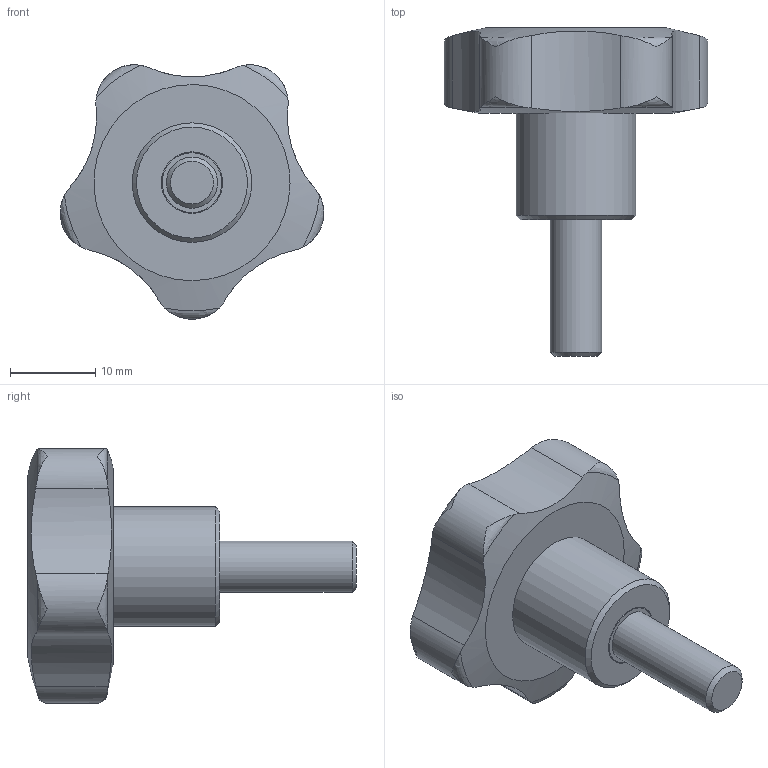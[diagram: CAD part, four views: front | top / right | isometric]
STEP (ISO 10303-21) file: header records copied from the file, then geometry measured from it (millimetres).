
FILE_DESCRIPTION( ( 'STEP AP203' ), '1' );
FILE_NAME( 'C:/Temp/Ganter_Step_05_03_2020/data/2_2/gn_5337_4/gn_5337_4_s/Star knob GN 5337.4-32-M6-16.stp', '2020-03-05T12:09:41', ( 'License CC BY-ND 4.0' ), ( 'CADENAS' ), ' ', 'PARTsolutions', ' ' );
FILE_SCHEMA( ( 'CONFIG_CONTROL_DESIGN' ) );
Length unit declared in the file: millimetre
Products named in the file (1): _Star knob GN 5337.4-32-M6-16
Bounding box: 30.87 x 38.5 x 29.8 mm (x, y, z)
Volume: 8267.8 mm3; surface area: 2934.9 mm2
Topology: 1 solids, 1 shells, 34 faces, 90 edges, 61 vertices
Faces by surface type: cylinder 14, torus 10, plane 5, cone 3, bspline 1, sphere 1
Full cylindrical faces by diameter (mm): 6 x1, 7 x1, 7.2 x1, 14 x1
Entity records: 1437 total; most frequent: CARTESIAN_POINT 674, ORIENTED_EDGE 154, DIRECTION 122, EDGE_CURVE 77, VERTEX_POINT 58, AXIS2_PLACEMENT_3D 56, EDGE_LOOP 46, B_SPLINE_CURVE_WITH_KNOTS 45
